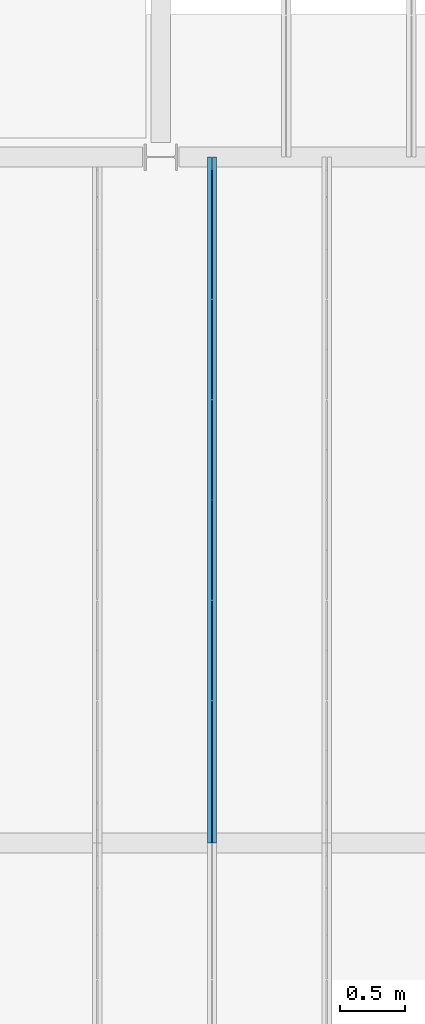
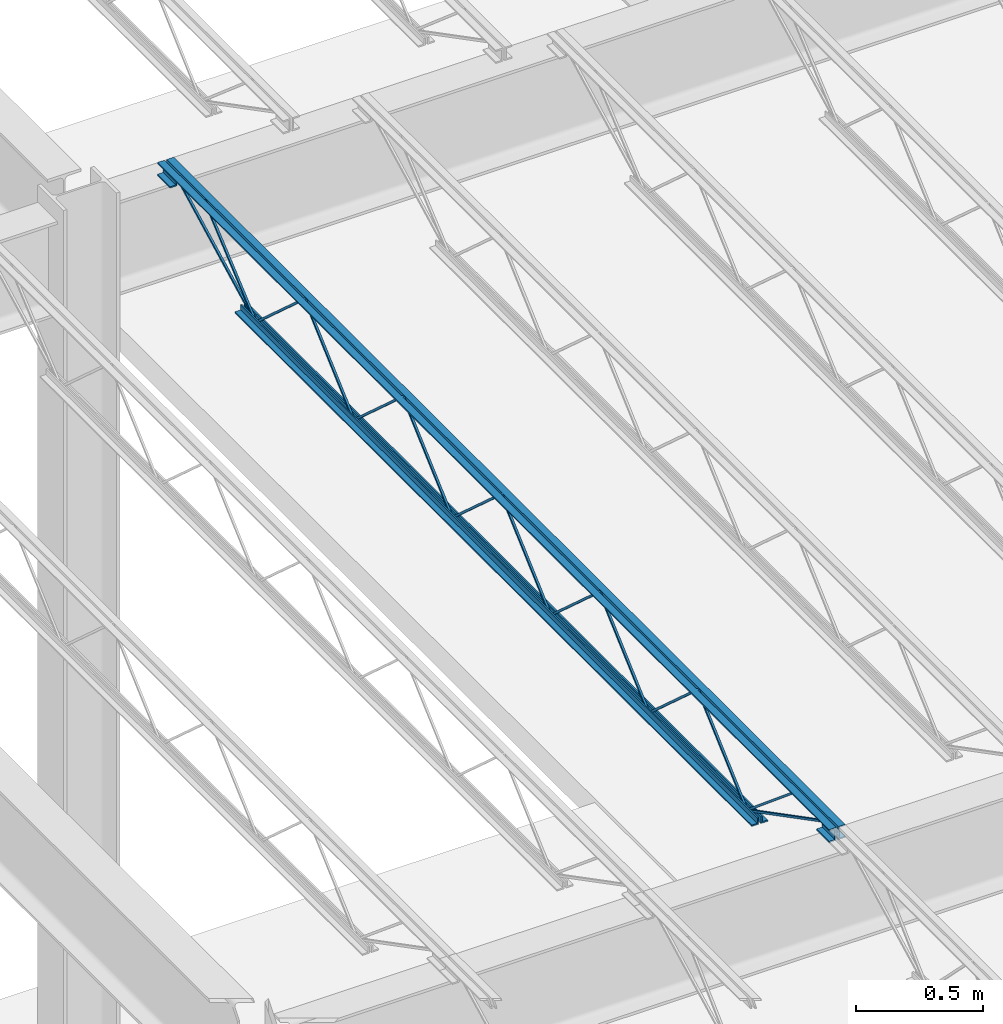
# One storey, part 84 of 119: 1 beam.
"""IFC2X3 building model written with IfcOpenShell, lengths in metres."""

from ifc_helpers import new_model, entity, si_unit, converted_unit, frame, origin, place, context, project, spatial, face_set, surface_model, element, save


model = new_model("IFC2X3")

# Units and contexts
model_context = context("Model", 3, precision=1e-09, world=origin())
plan_context = context("Plan", 3, precision=1e-09, world=origin())
ifc_project = project(units=[si_unit("LENGTHUNIT", "METRE"), si_unit("AREAUNIT", "SQUARE_METRE"), si_unit("VOLUMEUNIT", "CUBIC_METRE"), converted_unit("PLANEANGLEUNIT", "DEGREE", entity("IfcRatioMeasure", 0.01745329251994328), si_unit("PLANEANGLEUNIT", "RADIAN"), dimensions=[0, 0, 0, 0, 0, 0, 0]), si_unit("TIMEUNIT", "SECOND")], contexts=[model_context, plan_context])

# Site, building, storey
site_placement = place(None, origin())
site = spatial("IfcSite", under=ifc_project, at=site_placement, Name="Default", CompositionType="ELEMENT")
building_placement = place(site_placement, origin())
building = spatial("IfcBuilding", under=site, at=building_placement, CompositionType="ELEMENT")
storey_placement = place(building_placement, frame((0.0, 0.0, 4.570000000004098)))
storey = spatial("IfcBuildingStorey", under=building, at=storey_placement, Name="Second Floor", CompositionType="ELEMENT", Elevation=4.570000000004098)

# Beam
beam_placement = place(storey_placement, frame((-38.0305, 44.78050000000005, 4.323999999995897)))
element("IfcBeam", 1, at=beam_placement, inside=storey, Name="M_K-Series Bar Joist-Rod Web:14K1:14K1", ObjectType="M_K-Series Bar Joist-Rod Web:14K1", context=model_context, shape_type="SurfaceModel", body=[
    surface_model("IfcFaceBasedSurfaceModel", [(0.04149999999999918, 3.042999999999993, 0.01110000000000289), (0.03200000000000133, 3.042999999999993, 0.01110000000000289), (0.03200000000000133, 3.042999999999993, 0.001600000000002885), (0.04149999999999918, 3.042999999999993, 0.001600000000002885), (0.03200000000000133, 3.044354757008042, 0.01110000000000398), (0.04149999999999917, 3.044354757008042, 0.01110000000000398), (0.03200000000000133, 3.047995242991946, 0.001600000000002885), (0.0320000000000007, 3.430145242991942, 0.3449000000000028), (0.0320000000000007, 3.432854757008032, 0.3449000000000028), (0.03200000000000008, 3.815004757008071, 0.001600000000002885), (0.03200000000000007, 3.819999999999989, 0.001600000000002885), (0.03200000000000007, 3.819999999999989, 0.01110000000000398), (0.03200000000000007, 3.818645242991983, 0.01110000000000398), (0.0320000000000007, 3.436495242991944, 0.3544000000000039), (0.03200000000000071, 3.426504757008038, 0.3544000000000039), (0.0415000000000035, 3.047995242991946, 0.001600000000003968), (0.04149999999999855, 3.43014524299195, 0.3449000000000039), (0.04149999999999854, 3.432854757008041, 0.3449000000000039), (0.04149999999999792, 3.815004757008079, 0.001600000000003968), (0.04149999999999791, 3.819999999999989, 0.001600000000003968), (0.04149999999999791, 3.819999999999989, 0.01110000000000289), (0.04149999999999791, 3.818645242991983, 0.01110000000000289), (0.04149999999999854, 3.436495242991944, 0.3544000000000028), (0.04149999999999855, 3.426504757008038, 0.3544000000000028), (0.04150000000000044, 2.265999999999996, 0.01110000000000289), (0.0320000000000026, 2.265999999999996, 0.01110000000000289), (0.0320000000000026, 2.265999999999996, 0.001600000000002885), (0.04150000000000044, 2.265999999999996, 0.001600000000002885), (0.0320000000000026, 2.267354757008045, 0.01110000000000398), (0.04150000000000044, 2.267354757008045, 0.01110000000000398), (0.0320000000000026, 2.270995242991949, 0.001600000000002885), (0.03200000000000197, 2.653145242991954, 0.3449000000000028), (0.03200000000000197, 2.655854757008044, 0.3449000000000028), (0.03200000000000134, 3.038004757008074, 0.001600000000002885), (0.03200000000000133, 3.042999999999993, 0.01110000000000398), (0.03200000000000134, 3.041645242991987, 0.01110000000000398), (0.03200000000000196, 2.659495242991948, 0.3544000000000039), (0.03200000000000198, 2.649504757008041, 0.3544000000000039), (0.04150000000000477, 2.270995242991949, 0.001600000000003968), (0.04149999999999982, 2.653145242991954, 0.3449000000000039), (0.0414999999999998, 2.655854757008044, 0.3449000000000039), (0.04149999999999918, 3.038004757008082, 0.001600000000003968), (0.04149999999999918, 3.042999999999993, 0.001600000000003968), (0.04149999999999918, 3.041645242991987, 0.01110000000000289), (0.0414999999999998, 2.659495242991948, 0.3544000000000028), (0.04149999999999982, 2.649504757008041, 0.3544000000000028), (0.04150000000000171, 1.488999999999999, 0.01110000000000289), (0.03200000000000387, 1.488999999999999, 0.01110000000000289), (0.03200000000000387, 1.488999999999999, 0.001600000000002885), (0.04150000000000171, 1.488999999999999, 0.001600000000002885), (0.03200000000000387, 1.490354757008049, 0.01110000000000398), (0.04150000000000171, 1.490354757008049, 0.01110000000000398), (0.03200000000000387, 1.493995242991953, 0.001600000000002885), (0.03200000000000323, 1.876145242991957, 0.3449000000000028), (0.03200000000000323, 1.878854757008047, 0.3449000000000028), (0.03200000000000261, 2.261004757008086, 0.001600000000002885), (0.0320000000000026, 2.266000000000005, 0.001600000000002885), (0.0320000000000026, 2.265999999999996, 0.01110000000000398), (0.0320000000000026, 2.26464524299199, 0.01110000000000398), (0.03200000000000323, 1.882495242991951, 0.3544000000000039), (0.03200000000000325, 1.872504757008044, 0.3544000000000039), (0.04150000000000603, 1.493995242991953, 0.001600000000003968), (0.04150000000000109, 1.876145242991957, 0.3449000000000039), (0.04150000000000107, 1.878854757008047, 0.3449000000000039), (0.04150000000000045, 2.261004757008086, 0.001600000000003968), (0.04150000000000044, 2.265999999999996, 0.001600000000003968), (0.04150000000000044, 2.266000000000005, 0.01110000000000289), (0.04150000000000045, 2.26464524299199, 0.01110000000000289), (0.04150000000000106, 1.88249524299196, 0.3544000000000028), (0.04150000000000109, 1.872504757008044, 0.3544000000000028), (0.04149999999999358, 3.819999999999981, 0.01109999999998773), (0.03199999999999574, 3.819999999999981, 0.01109999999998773), (0.03199999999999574, 3.819999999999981, 0.001599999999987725), (0.04149999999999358, 3.819999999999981, 0.001599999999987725), (0.03199999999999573, 3.82135475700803, 0.01109999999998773), (0.04149999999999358, 3.82135475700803, 0.01109999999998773), (0.03199999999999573, 3.824995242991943, 0.001599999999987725), (0.03199999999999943, 4.207145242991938, 0.3448999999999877), (0.03199999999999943, 4.209854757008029, 0.3448999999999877), (0.03199999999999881, 4.592004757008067, 0.001599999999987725), (0.0319999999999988, 4.596999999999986, 0.001599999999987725), (0.03199999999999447, 4.596999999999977, 0.01109999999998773), (0.03199999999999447, 4.595645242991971, 0.01109999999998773), (0.0319999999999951, 4.213495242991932, 0.3543999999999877), (0.03199999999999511, 4.203504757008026, 0.3543999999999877), (0.0414999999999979, 3.824995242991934, 0.001599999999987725), (0.04149999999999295, 4.207145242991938, 0.3448999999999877), (0.04149999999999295, 4.209854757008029, 0.3448999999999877), (0.04149999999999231, 4.592004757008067, 0.001599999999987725), (0.04149999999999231, 4.596999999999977, 0.001599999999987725), (0.04149999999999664, 4.596999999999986, 0.01109999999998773), (0.04149999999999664, 4.59564524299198, 0.01109999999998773), (0.04149999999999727, 4.213495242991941, 0.3543999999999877), (0.04149999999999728, 4.203504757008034, 0.3543999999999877), (0.04149999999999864, 0.7120000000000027, 0.01110000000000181), (0.03200000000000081, 0.7120000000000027, 0.01110000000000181), (0.03200000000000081, 0.7120000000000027, 0.001600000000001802), (0.04149999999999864, 0.7120000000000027, 0.001600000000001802), (0.03200000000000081, 0.7133547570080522, 0.01110000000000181), (0.04149999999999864, 0.7133547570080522, 0.01110000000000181), (0.0320000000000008, 0.7169952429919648, 0.001600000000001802), (0.03200000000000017, 1.09914524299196, 0.3449000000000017), (0.03200000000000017, 1.101854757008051, 0.3449000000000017), (0.03200000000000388, 1.484004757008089, 0.001600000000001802), (0.03200000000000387, 1.489000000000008, 0.001600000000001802), (0.03199999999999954, 1.488999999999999, 0.01110000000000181), (0.03199999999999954, 1.487645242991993, 0.01110000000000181), (0.03200000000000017, 1.105495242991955, 0.3544000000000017), (0.03200000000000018, 1.095504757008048, 0.3544000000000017), (0.04150000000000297, 0.7169952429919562, 0.001600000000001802), (0.04149999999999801, 1.09914524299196, 0.3449000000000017), (0.04149999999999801, 1.101854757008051, 0.3449000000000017), (0.04149999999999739, 1.484004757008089, 0.001600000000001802), (0.04149999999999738, 1.488999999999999, 0.001600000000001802), (0.04150000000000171, 1.489000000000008, 0.01110000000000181), (0.04150000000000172, 1.487645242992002, 0.01110000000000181), (0.041499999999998, 1.105495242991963, 0.3544000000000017), (0.04149999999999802, 1.095504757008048, 0.3544000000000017), (0.03200000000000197, 5.309000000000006, 0.3559999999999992), (0.0, 5.309000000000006, 0.3559999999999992), (0.0, 5.309000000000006, 0.3494999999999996), (0.02550000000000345, 5.309000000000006, 0.3494999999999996), (0.02550000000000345, 5.309000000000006, 0.3239999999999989), (0.03200000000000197, 5.309000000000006, 0.3239999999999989), (0.04149999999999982, 5.309000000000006, 0.3559999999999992), (0.04149999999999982, 5.309000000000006, 0.3239999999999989), (0.04800000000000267, 5.309000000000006, 0.3239999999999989), (0.04800000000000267, 5.309000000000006, 0.3494999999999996), (0.0735000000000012, 5.309000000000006, 0.3494999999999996), (0.0735000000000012, 5.309000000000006, 0.3559999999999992), (0.03200000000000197, 0.0, 0.3559999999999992), (0.0, 0.0, 0.3559999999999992), (0.0, 0.0, 0.3494999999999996), (0.02550000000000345, 0.0, 0.3494999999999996), (0.02550000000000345, 0.0, 0.3239999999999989), (0.03200000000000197, 0.0, 0.3239999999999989), (0.0414999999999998, 0.0, 0.3559999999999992), (0.0414999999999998, 0.0, 0.3239999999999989), (0.04800000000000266, 0.0, 0.3239999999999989), (0.04800000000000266, 0.0, 0.3494999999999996), (0.07350000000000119, 0.0, 0.3494999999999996), (0.07350000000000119, 0.0, 0.3559999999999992), (0.04149999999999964, 0.09999999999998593, 0.2924999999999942), (0.07350000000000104, 0.09999999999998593, 0.2924999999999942), (0.07350000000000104, 0.09999999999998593, 0.2989999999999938), (0.04799999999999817, 0.09999999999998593, 0.2989999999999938), (0.04799999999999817, 0.09999999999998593, 0.3239999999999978), (0.04149999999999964, 0.09999999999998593, 0.3239999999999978), (0.0, 0.09999999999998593, 0.2924999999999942), (0.03200000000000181, 0.09999999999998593, 0.2924999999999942), (0.03200000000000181, 0.09999999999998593, 0.3239999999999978), (0.02549999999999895, 0.09999999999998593, 0.3239999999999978), (0.02549999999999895, 0.09999999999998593, 0.2989999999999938), (0.0, 0.09999999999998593, 0.2989999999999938), (0.0414999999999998, 0.0, 0.2924999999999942), (0.07350000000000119, 0.0, 0.2924999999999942), (0.07350000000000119, 0.0, 0.2989999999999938), (0.04799999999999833, 0.0, 0.2989999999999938), (0.04799999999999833, 0.0, 0.3239999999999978), (0.0414999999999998, 0.0, 0.3239999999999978), (0.0, 0.0, 0.2924999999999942), (0.03200000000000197, 0.0, 0.2924999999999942), (0.03200000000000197, 0.0, 0.3239999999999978), (0.02549999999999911, 0.0, 0.3239999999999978), (0.02549999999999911, 0.0, 0.2989999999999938), (0.0, 0.0, 0.2989999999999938), (0.03200000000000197, 5.309000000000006, 0.2924999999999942), (0.03200000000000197, 5.309000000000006, 0.3239999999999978), (0.02549999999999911, 5.309000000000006, 0.3239999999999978), (0.02549999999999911, 5.309000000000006, 0.2989999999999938), (0.0, 5.309000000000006, 0.2989999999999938), (0.0, 5.309000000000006, 0.2924999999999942), (0.04149999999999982, 5.309000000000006, 0.2924999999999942), (0.0735000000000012, 5.309000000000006, 0.2924999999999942), (0.0735000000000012, 5.309000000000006, 0.2989999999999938), (0.04799999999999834, 5.309000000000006, 0.2989999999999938), (0.04799999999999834, 5.309000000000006, 0.3239999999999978), (0.04149999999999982, 5.309000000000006, 0.3239999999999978), (0.03200000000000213, 5.209000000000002, 0.2924999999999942), (0.03200000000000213, 5.209000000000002, 0.3239999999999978), (0.02549999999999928, 5.209000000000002, 0.3239999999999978), (0.02549999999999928, 5.209000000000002, 0.2989999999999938), (0.0, 5.209000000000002, 0.2989999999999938), (0.0, 5.209000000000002, 0.2924999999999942), (0.04149999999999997, 5.209000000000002, 0.2924999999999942), (0.07350000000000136, 5.209000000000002, 0.2924999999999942), (0.07350000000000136, 5.209000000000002, 0.2989999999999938), (0.0479999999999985, 5.209000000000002, 0.2989999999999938), (0.0479999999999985, 5.209000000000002, 0.3239999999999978), (0.04149999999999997, 5.209000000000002, 0.3239999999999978), (0.03200000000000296, 4.697000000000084, 0.0), (0.03200000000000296, 4.697000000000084, 0.03199999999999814), (0.02550000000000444, 4.697000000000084, 0.03199999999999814), (0.02550000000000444, 4.697000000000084, 0.006499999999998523), (0.0, 4.697000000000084, 0.006499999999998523), (0.0, 4.697000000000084, 0.0), (0.04150000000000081, 4.697000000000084, 0.0), (0.0735000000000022, 4.697000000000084, 0.0), (0.0735000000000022, 4.697000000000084, 0.006499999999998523), (0.04800000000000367, 4.697000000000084, 0.006499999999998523), (0.04800000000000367, 4.697000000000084, 0.03199999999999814), (0.04150000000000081, 4.697000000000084, 0.03199999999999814), (0.03200000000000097, 0.6120000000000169, 0.0), (0.03200000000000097, 0.6120000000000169, 0.03199999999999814), (0.02550000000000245, 0.6120000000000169, 0.03199999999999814), (0.02550000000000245, 0.6120000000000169, 0.006499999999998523), (0.0, 0.6120000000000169, 0.006499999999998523), (0.0, 0.6120000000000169, 0.0), (0.04149999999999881, 0.6120000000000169, 0.0), (0.07350000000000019, 0.6120000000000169, 0.0), (0.07350000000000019, 0.6120000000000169, 0.006499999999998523), (0.04800000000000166, 0.6120000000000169, 0.006499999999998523), (0.04800000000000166, 0.6120000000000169, 0.03199999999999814), (0.04149999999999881, 0.6120000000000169, 0.03199999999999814), (0.04149999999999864, 0.7141882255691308, 0.01056594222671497), (0.0320000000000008, 0.7141882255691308, 0.01056594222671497), (0.03200000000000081, 0.709811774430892, 0.00213405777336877), (0.04149999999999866, 0.709811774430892, 0.00213405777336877), (0.04149999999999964, 0.1011592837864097, 0.3287499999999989), (0.0414999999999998, 0.0, 0.3287499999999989), (0.0414999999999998, 0.0, 0.3192499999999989), (0.04149999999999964, 0.09884071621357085, 0.3192499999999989), (0.03199999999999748, 0.09884071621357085, 0.3192499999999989), (0.03200000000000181, 0.1011592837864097, 0.3287499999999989), (0.03200000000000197, 0.0, 0.3287499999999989), (0.03200000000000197, 0.0, 0.3192499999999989), (0.04149999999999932, 0.3035428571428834, 0.3417000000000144), (0.03200000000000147, 0.3035428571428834, 0.3417000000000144), (0.03200000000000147, 0.3035428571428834, 0.3322000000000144), (0.04149999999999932, 0.3035428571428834, 0.3322000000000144), (0.03200000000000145, 0.3179658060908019, 0.3417000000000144), (0.04149999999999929, 0.3179658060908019, 0.3417000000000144), (0.03200000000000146, 0.3145199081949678, 0.3322000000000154), (0.03200000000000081, 0.7089547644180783, 0.002704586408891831), (0.0320000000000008, 0.7150452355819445, 0.009995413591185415), (0.04150000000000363, 0.3145199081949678, 0.3322000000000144), (0.04149999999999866, 0.7089547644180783, 0.002704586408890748), (0.04149999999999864, 0.7150452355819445, 0.009995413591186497), (0.04149999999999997, 5.211188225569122, 0.3197840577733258), (0.04149999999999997, 5.206811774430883, 0.328215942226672), (0.03200000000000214, 5.206811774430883, 0.328215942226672), (0.03200000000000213, 5.211188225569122, 0.3197840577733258), (0.04150000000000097, 4.599188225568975, 0.002134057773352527), (0.04150000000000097, 4.594811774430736, 0.01056594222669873), (0.03200000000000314, 4.594811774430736, 0.01056594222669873), (0.03200000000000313, 4.599188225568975, 0.002134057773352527), (0.04150000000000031, 5.00309445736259, 0.3460340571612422), (0.04150000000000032, 4.996934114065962, 0.35326594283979), (0.03200000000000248, 4.996934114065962, 0.3532659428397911), (0.03200000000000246, 5.00309445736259, 0.3460340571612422), (0.04150000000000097, 4.600080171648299, 0.002734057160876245), (0.04150000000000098, 4.593919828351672, 0.00996594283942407), (0.03200000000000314, 4.593919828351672, 0.00996594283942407), (0.03200000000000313, 4.600080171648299, 0.002734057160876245)], [face_set([[[0, 1, 2, 3]], [[1, 4, 5, 0]], [[2, 6, 7, 8, 9, 10, 11, 12, 13, 14, 4, 1]], [[3, 2, 6, 15]], [[0, 3, 15, 16, 17, 18, 19, 20, 21, 22, 23, 5]], [[4, 5, 23, 14]], [[15, 16, 7, 6]], [[14, 13, 22, 23]], [[16, 7, 8, 17]], [[13, 12, 21, 22]], [[17, 8, 9, 18]], [[20, 11, 10, 19]], [[12, 11, 20, 21]], [[18, 9, 10, 19]]]), face_set([[[24, 25, 26, 27]], [[25, 28, 29, 24]], [[26, 30, 31, 32, 33, 2, 34, 35, 36, 37, 28, 25]], [[27, 26, 30, 38]], [[24, 27, 38, 39, 40, 41, 42, 0, 43, 44, 45, 29]], [[28, 29, 45, 37]], [[38, 39, 31, 30]], [[37, 36, 44, 45]], [[39, 31, 32, 40]], [[36, 35, 43, 44]], [[40, 32, 33, 41]], [[0, 34, 2, 42]], [[35, 34, 0, 43]], [[41, 33, 2, 42]]]), face_set([[[46, 47, 48, 49]], [[47, 50, 51, 46]], [[48, 52, 53, 54, 55, 56, 57, 58, 59, 60, 50, 47]], [[49, 48, 52, 61]], [[46, 49, 61, 62, 63, 64, 65, 66, 67, 68, 69, 51]], [[50, 51, 69, 60]], [[61, 62, 53, 52]], [[60, 59, 68, 69]], [[62, 53, 54, 63]], [[59, 58, 67, 68]], [[63, 54, 55, 64]], [[66, 57, 56, 65]], [[58, 57, 66, 67]], [[64, 55, 56, 65]]]), face_set([[[70, 71, 72, 73]], [[71, 74, 75, 70]], [[72, 76, 77, 78, 79, 80, 81, 82, 83, 84, 74, 71]], [[73, 72, 76, 85]], [[70, 73, 85, 86, 87, 88, 89, 90, 91, 92, 93, 75]], [[74, 75, 93, 84]], [[85, 86, 77, 76]], [[84, 83, 92, 93]], [[86, 77, 78, 87]], [[83, 82, 91, 92]], [[87, 78, 79, 88]], [[90, 81, 80, 89]], [[82, 81, 90, 91]], [[88, 79, 80, 89]]]), face_set([[[94, 95, 96, 97]], [[95, 98, 99, 94]], [[96, 100, 101, 102, 103, 104, 105, 106, 107, 108, 98, 95]], [[97, 96, 100, 109]], [[94, 97, 109, 110, 111, 112, 113, 114, 115, 116, 117, 99]], [[98, 99, 117, 108]], [[109, 110, 101, 100]], [[108, 107, 116, 117]], [[110, 101, 102, 111]], [[107, 106, 115, 116]], [[111, 102, 103, 112]], [[114, 105, 104, 113]], [[106, 105, 114, 115]], [[112, 103, 104, 113]]]), face_set([[[118, 119, 120, 121, 122, 123]], [[124, 125, 126, 127, 128, 129]], [[130, 131, 132, 133, 134, 135]], [[136, 137, 138, 139, 140, 141]], [[123, 118, 130, 135]], [[122, 123, 135, 134]], [[121, 133, 134, 122]], [[120, 121, 133, 132]], [[119, 131, 132, 120]], [[118, 130, 131, 119]], [[129, 141, 136, 124]], [[128, 129, 141, 140]], [[127, 128, 140, 139]], [[126, 127, 139, 138]], [[125, 126, 138, 137]], [[124, 136, 137, 125]]]), face_set([[[142, 143, 144, 145, 146, 147]], [[148, 149, 150, 151, 152, 153]], [[154, 155, 156, 157, 158, 159]], [[160, 161, 162, 163, 164, 165]], [[147, 159, 154, 142]], [[146, 158, 159, 147]], [[145, 146, 158, 157]], [[144, 156, 157, 145]], [[143, 144, 156, 155]], [[142, 143, 155, 154]], [[153, 165, 160, 148]], [[152, 164, 165, 153]], [[151, 163, 164, 152]], [[150, 162, 163, 151]], [[149, 150, 162, 161]], [[148, 149, 161, 160]]]), face_set([[[166, 167, 168, 169, 170, 171]], [[172, 173, 174, 175, 176, 177]], [[178, 179, 180, 181, 182, 183]], [[184, 185, 186, 187, 188, 189]], [[171, 166, 178, 183]], [[170, 182, 183, 171]], [[169, 181, 182, 170]], [[168, 180, 181, 169]], [[167, 179, 180, 168]], [[166, 167, 179, 178]], [[177, 189, 184, 172]], [[176, 188, 189, 177]], [[175, 176, 188, 187]], [[174, 186, 187, 175]], [[173, 174, 186, 185]], [[172, 173, 185, 184]]]), face_set([[[190, 191, 192, 193, 194, 195]], [[196, 197, 198, 199, 200, 201]], [[202, 203, 204, 205, 206, 207]], [[208, 209, 210, 211, 212, 213]], [[195, 190, 202, 207]], [[194, 206, 207, 195]], [[193, 205, 206, 194]], [[192, 204, 205, 193]], [[191, 203, 204, 192]], [[190, 191, 203, 202]], [[201, 213, 208, 196]], [[200, 212, 213, 201]], [[199, 200, 212, 211]], [[198, 210, 211, 199]], [[197, 198, 210, 209]], [[196, 197, 209, 208]]]), face_set([[[214, 215, 216, 217]], [[217, 214, 218, 219, 220, 221]], [[216, 217, 221, 222]], [[215, 223, 224, 225, 222, 216]], [[214, 218, 223, 215]], [[219, 224, 225, 220]], [[222, 221, 220, 225]], [[218, 219, 224, 223]]]), face_set([[[226, 227, 228, 229]], [[227, 230, 231, 226]], [[228, 232, 233, 234, 230, 227]], [[229, 228, 232, 235]], [[226, 229, 235, 236, 237, 231]], [[237, 234, 233, 236]], [[230, 234, 237, 231]], [[235, 232, 233, 236]]]), face_set([[[238, 239, 240, 241]], [[242, 243, 244, 245]], [[241, 245, 242, 238]], [[240, 244, 245, 241]], [[239, 240, 244, 243]], [[238, 239, 243, 242]]]), face_set([[[246, 247, 248, 249]], [[250, 251, 252, 253]], [[249, 253, 250, 246]], [[248, 252, 253, 249]], [[247, 248, 252, 251]], [[246, 247, 251, 250]]])]),
])

save(model, "model.ifc")
